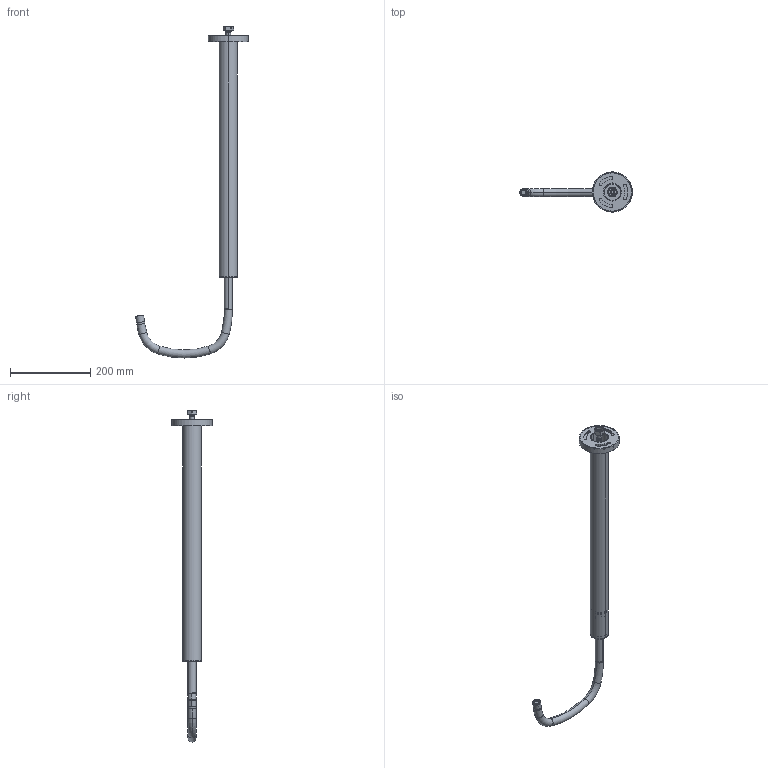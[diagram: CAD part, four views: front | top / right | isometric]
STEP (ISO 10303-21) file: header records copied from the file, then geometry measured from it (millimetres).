
FILE_DESCRIPTION((''),'2;1');
FILE_NAME('ASM0001_ASM','2019-12-07T',('Admin'),(''),'PRO/ENGINEER BY PARAMETRIC TECHNOLOGY CORPORATION, 2015240','PRO/ENGINEER BY PARAMETRIC TECHNOLOGY CORPORATION, 2015240','');
FILE_SCHEMA(('CONFIG_CONTROL_DESIGN'));
Length unit declared in the file: millimetre
Products named in the file (22): PRT0001_AF0; PRT0002_AF0; 13X1-8_AF0; 13X1-8_AF1; PRT0003_AF0; PRT0004_AF0; 01_AF1; M4X5_AF0; 24X2_AF0; 24X2_AF1; 41X3_AF0; 41X3_AF1; PRT0011_AF0; M16-5X1-_AF0; PRT0010_AF0; PRT0012_AF0; PRT0013_AF0; 51X3_AF0; ASM0002_AF1_ASM; M4X10; 1; ASM0001_ASM
Assembly tree (21 placements, depth 3):
  ASM0001_ASM
    PRT0001_AF0
    PRT0002_AF0
    13X1-8_AF0
    13X1-8_AF1
    PRT0003_AF0
    PRT0004_AF0
    01_AF1
    M4X5_AF0
    24X2_AF0
    24X2_AF1
    41X3_AF0
    41X3_AF1
    PRT0011_AF0
    M16-5X1-_AF0
    ASM0002_AF1_ASM
      PRT0010_AF0
      PRT0012_AF0
      PRT0013_AF0
      51X3_AF0
    M4X10
    1
Bounding box: 280.53 x 100 x 825.36 mm (x, y, z)
Volume: 396587.1 mm3; surface area: 298661.9 mm2
Topology: 20 solids, 20 shells, 458 faces, 1023 edges, 635 vertices
Faces by surface type: cylinder 182, plane 124, cone 80, torus 64, bspline 6, sphere 2
Entity records: 14004 total; most frequent: CARTESIAN_POINT 2911, DIRECTION 2543, ORIENTED_EDGE 2042, AXIS2_PLACEMENT_3D 1079, EDGE_CURVE 1021, VERTEX_POINT 635, CIRCLE 580, EDGE_LOOP 530
